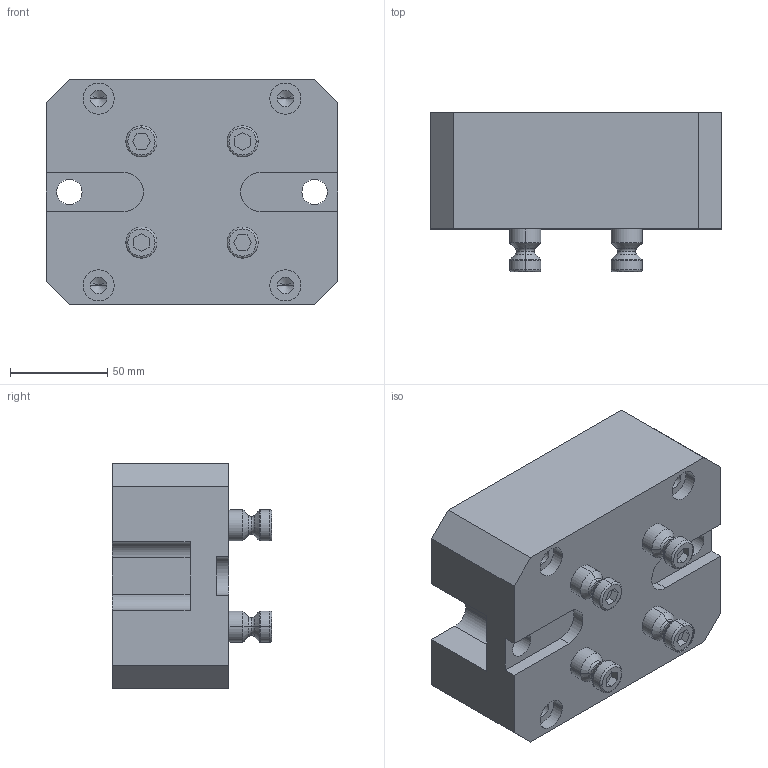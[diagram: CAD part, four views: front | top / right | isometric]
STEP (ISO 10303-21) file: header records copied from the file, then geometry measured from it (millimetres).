
FILE_DESCRIPTION (( 'STEP AP203' ), '1' );
FILE_NAME ('43060.STEP', '2012-10-24T13:08:00', ( '' ), ( '' ), 'SwSTEP 2.0', 'SolidWorks 2011', '' );
FILE_SCHEMA (( 'CONFIG_CONTROL_DESIGN' ));
Length unit declared in the file: millimetre
Products named in the file (1): 43060
Bounding box: 150 x 82 x 116 mm (x, y, z)
Volume: 936881.4 mm3; surface area: 85259.3 mm2
Topology: 5 solids, 5 shells, 247 faces, 555 edges, 326 vertices
Faces by surface type: cylinder 83, plane 76, cone 56, torus 32
Entity records: 6764 total; most frequent: DIRECTION 1281, CARTESIAN_POINT 1105, ORIENTED_EDGE 1062, EDGE_CURVE 531, AXIS2_PLACEMENT_3D 502, VERTEX_POINT 326, EDGE_LOOP 283, VECTOR 277
